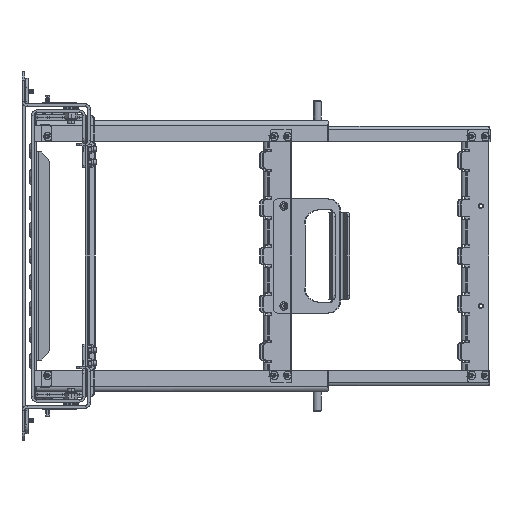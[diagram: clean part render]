
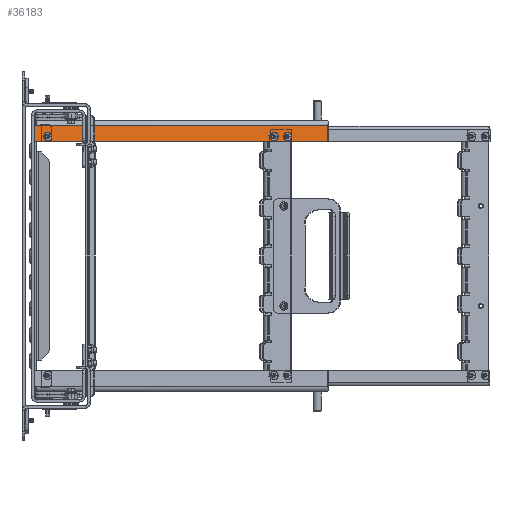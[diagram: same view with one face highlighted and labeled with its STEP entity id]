
A CAD part, left-side view. The second image highlights one B-rep face of the part: STEP entity #36183.
In plain terms, the highlighted planar face has unit normal (-0.906, -0.423, 0) as drawn and (0, -1, 0) by its records, which use the part's own axes.
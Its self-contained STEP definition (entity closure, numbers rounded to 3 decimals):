
#783 = AXIS2_PLACEMENT_3D ( 'NONE', #29676, #2692, #34147 ) ;
#945 = CARTESIAN_POINT ( 'NONE',  ( 19., -23., 308.5 ) ) ;
#1224 = VERTEX_POINT ( 'NONE', #37171 ) ;
#1406 = DIRECTION ( 'NONE',  ( 0., 0., -1. ) ) ;
#1747 = ORIENTED_EDGE ( 'NONE', *, *, #24952, .T. ) ;
#1853 = CIRCLE ( 'NONE', #26958, 5. ) ;
#1890 = CARTESIAN_POINT ( 'NONE',  ( 19., -23., 23.78 ) ) ;
#2171 = FACE_OUTER_BOUND ( 'NONE', #6515, .T. ) ;
#2384 = DIRECTION ( 'NONE',  ( 0., -1., 0. ) ) ;
#2692 = DIRECTION ( 'NONE',  ( 0., 1., 0. ) ) ;
#2696 = LINE ( 'NONE', #34678, #30590 ) ;
#2944 = CIRCLE ( 'NONE', #49827, 5. ) ;
#3087 = CIRCLE ( 'NONE', #23998, 5. ) ;
#3306 = CARTESIAN_POINT ( 'NONE',  ( 21., -23., 373.5 ) ) ;
#3804 = ORIENTED_EDGE ( 'NONE', *, *, #37893, .T. ) ;
#4331 = EDGE_CURVE ( 'NONE', #20113, #30916, #37913, .T. ) ;
#5389 = DIRECTION ( 'NONE',  ( 0., 0., -1. ) ) ;
#6515 = EDGE_LOOP ( 'NONE', ( #1747, #28278, #25249, #22076, #45845, #16005, #45712, #3804 ) ) ;
#6719 = VERTEX_POINT ( 'NONE', #9706 ) ;
#6976 = EDGE_CURVE ( 'NONE', #14742, #37053, #1853, .T. ) ;
#7355 = CIRCLE ( 'NONE', #29936, 5. ) ;
#7768 = CARTESIAN_POINT ( 'NONE',  ( 19., -23., 320.5 ) ) ;
#8400 = AXIS2_PLACEMENT_3D ( 'NONE', #46232, #14206, #26290 ) ;
#8640 = ORIENTED_EDGE ( 'NONE', *, *, #21545, .F. ) ;
#9249 = DIRECTION ( 'NONE',  ( 0., -1., 0. ) ) ;
#9311 = CARTESIAN_POINT ( 'NONE',  ( 25., -23., 373.5 ) ) ;
#9428 = CARTESIAN_POINT ( 'NONE',  ( 6., -23., 0. ) ) ;
#9480 = CARTESIAN_POINT ( 'NONE',  ( 7., -23., 6.499 ) ) ;
#9706 = CARTESIAN_POINT ( 'NONE',  ( 6., -23., 8.206 ) ) ;
#10190 = CARTESIAN_POINT ( 'NONE',  ( 19., -23., 330.5 ) ) ;
#10491 = CARTESIAN_POINT ( 'NONE',  ( 19., -23., 18.78 ) ) ;
#10976 = CARTESIAN_POINT ( 'NONE',  ( 24., -23., 7.499 ) ) ;
#11766 = DIRECTION ( 'NONE',  ( -1., 0., 0. ) ) ;
#11991 = CARTESIAN_POINT ( 'NONE',  ( 19., -23., 325.5 ) ) ;
#12692 = DIRECTION ( 'NONE',  ( 0., 0., 1. ) ) ;
#12943 = DIRECTION ( 'NONE',  ( 0., -1., 0. ) ) ;
#14017 = CARTESIAN_POINT ( 'NONE',  ( 6., -23., 377.5 ) ) ;
#14069 = EDGE_CURVE ( 'NONE', #30911, #40351, #2944, .T. ) ;
#14206 = DIRECTION ( 'NONE',  ( 0., -1., 0. ) ) ;
#14461 = PLANE ( 'NONE',  #783 ) ;
#14647 = EDGE_CURVE ( 'NONE', #41322, #37560, #51262, .T. ) ;
#14714 = DIRECTION ( 'NONE',  ( -1., 0., 0. ) ) ;
#14742 = VERTEX_POINT ( 'NONE', #28948 ) ;
#14959 = ORIENTED_EDGE ( 'NONE', *, *, #14069, .F. ) ;
#15364 = DIRECTION ( 'NONE',  ( 1., 0., 0. ) ) ;
#15890 = AXIS2_PLACEMENT_3D ( 'NONE', #11991, #35882, #43780 ) ;
#16005 = ORIENTED_EDGE ( 'NONE', *, *, #4331, .T. ) ;
#16083 = ORIENTED_EDGE ( 'NONE', *, *, #6976, .F. ) ;
#18350 = DIRECTION ( 'NONE',  ( -1., 0., 0. ) ) ;
#18535 = CARTESIAN_POINT ( 'NONE',  ( 6., -23., 7.499 ) ) ;
#19222 = CARTESIAN_POINT ( 'NONE',  ( 19., -23., 28.78 ) ) ;
#19271 = DIRECTION ( 'NONE',  ( 0., -1., 0. ) ) ;
#19324 = ORIENTED_EDGE ( 'NONE', *, *, #25626, .F. ) ;
#19760 = DIRECTION ( 'NONE',  ( 0., 0., 1. ) ) ;
#19788 = ORIENTED_EDGE ( 'NONE', *, *, #44834, .F. ) ;
#19965 = EDGE_CURVE ( 'NONE', #1224, #30916, #2696, .T. ) ;
#20113 = VERTEX_POINT ( 'NONE', #18535 ) ;
#20150 = DIRECTION ( 'NONE',  ( 0., 0., -1. ) ) ;
#20452 = VERTEX_POINT ( 'NONE', #14017 ) ;
#21545 = EDGE_CURVE ( 'NONE', #37053, #14742, #7355, .T. ) ;
#21717 = VECTOR ( 'NONE', #19760, 1000. ) ;
#22076 = ORIENTED_EDGE ( 'NONE', *, *, #32546, .F. ) ;
#23998 = AXIS2_PLACEMENT_3D ( 'NONE', #45192, #9249, #1406 ) ;
#24023 = CARTESIAN_POINT ( 'NONE',  ( 6., -23., 377.5 ) ) ;
#24831 = VERTEX_POINT ( 'NONE', #7768 ) ;
#24952 = EDGE_CURVE ( 'NONE', #28611, #41322, #44715, .T. ) ;
#25249 = ORIENTED_EDGE ( 'NONE', *, *, #36791, .F. ) ;
#25626 = EDGE_CURVE ( 'NONE', #24831, #39453, #32639, .T. ) ;
#25756 = FACE_BOUND ( 'NONE', #46260, .T. ) ;
#25942 = LINE ( 'NONE', #9428, #32059 ) ;
#26290 = DIRECTION ( 'NONE',  ( 0., 0., -1. ) ) ;
#26958 = AXIS2_PLACEMENT_3D ( 'NONE', #945, #12943, #5389 ) ;
#27665 = DIRECTION ( 'NONE',  ( -1., 0., 0. ) ) ;
#28035 = CARTESIAN_POINT ( 'NONE',  ( 19., -23., 308.5 ) ) ;
#28278 = ORIENTED_EDGE ( 'NONE', *, *, #14647, .T. ) ;
#28470 = LINE ( 'NONE', #24023, #33432 ) ;
#28611 = VERTEX_POINT ( 'NONE', #46615 ) ;
#28948 = CARTESIAN_POINT ( 'NONE',  ( 19., -23., 313.5 ) ) ;
#28953 = CARTESIAN_POINT ( 'NONE',  ( 25., -23., 308.5 ) ) ;
#29108 = EDGE_CURVE ( 'NONE', #20113, #6719, #32599, .T. ) ;
#29676 = CARTESIAN_POINT ( 'NONE',  ( 0., -23., 0. ) ) ;
#29936 = AXIS2_PLACEMENT_3D ( 'NONE', #28035, #44055, #20150 ) ;
#30590 = VECTOR ( 'NONE', #14714, 1000. ) ;
#30911 = VERTEX_POINT ( 'NONE', #10491 ) ;
#30916 = VERTEX_POINT ( 'NONE', #9480 ) ;
#31253 = CARTESIAN_POINT ( 'NONE',  ( 21., -23., 377.5 ) ) ;
#32059 = VECTOR ( 'NONE', #45375, 1000. ) ;
#32546 = EDGE_CURVE ( 'NONE', #6719, #20452, #25942, .T. ) ;
#32599 = LINE ( 'NONE', #36553, #21717 ) ;
#32639 = CIRCLE ( 'NONE', #15890, 5. ) ;
#33334 = DIRECTION ( 'NONE',  ( 0., 0., -1. ) ) ;
#33422 = VECTOR ( 'NONE', #12692, 1000. ) ;
#33432 = VECTOR ( 'NONE', #15364, 1000. ) ;
#34147 = DIRECTION ( 'NONE',  ( -1., 0., 0. ) ) ;
#34534 = AXIS2_PLACEMENT_3D ( 'NONE', #38305, #2384, #18350 ) ;
#34678 = CARTESIAN_POINT ( 'NONE',  ( 6., -23., 6.499 ) ) ;
#35314 = AXIS2_PLACEMENT_3D ( 'NONE', #3306, #19271, #27665 ) ;
#35396 = DIRECTION ( 'NONE',  ( 0., -1., 0. ) ) ;
#35882 = DIRECTION ( 'NONE',  ( 0., -1., 0. ) ) ;
#36183 = ADVANCED_FACE ( 'NONE', ( #25756, #37839, #38100, #2171 ), #14461, .F. ) ;
#36553 = CARTESIAN_POINT ( 'NONE',  ( 6., -23., 0. ) ) ;
#36791 = EDGE_CURVE ( 'NONE', #20452, #37560, #28470, .T. ) ;
#36899 = CIRCLE ( 'NONE', #8400, 5. ) ;
#37053 = VERTEX_POINT ( 'NONE', #38423 ) ;
#37171 = CARTESIAN_POINT ( 'NONE',  ( 24., -23., 6.499 ) ) ;
#37440 = EDGE_CURVE ( 'NONE', #40351, #30911, #36899, .T. ) ;
#37560 = VERTEX_POINT ( 'NONE', #31253 ) ;
#37839 = FACE_BOUND ( 'NONE', #47119, .T. ) ;
#37893 = EDGE_CURVE ( 'NONE', #1224, #28611, #44459, .T. ) ;
#37913 = CIRCLE ( 'NONE', #34534, 1. ) ;
#38100 = FACE_BOUND ( 'NONE', #41313, .T. ) ;
#38305 = CARTESIAN_POINT ( 'NONE',  ( 7., -23., 7.499 ) ) ;
#38423 = CARTESIAN_POINT ( 'NONE',  ( 19., -23., 303.5 ) ) ;
#39453 = VERTEX_POINT ( 'NONE', #10190 ) ;
#40351 = VERTEX_POINT ( 'NONE', #19222 ) ;
#41313 = EDGE_LOOP ( 'NONE', ( #14959, #44325 ) ) ;
#41322 = VERTEX_POINT ( 'NONE', #9311 ) ;
#41759 = DIRECTION ( 'NONE',  ( 0., -1., 0. ) ) ;
#43664 = AXIS2_PLACEMENT_3D ( 'NONE', #10976, #35396, #11766 ) ;
#43780 = DIRECTION ( 'NONE',  ( 0., 0., -1. ) ) ;
#44055 = DIRECTION ( 'NONE',  ( 0., -1., 0. ) ) ;
#44325 = ORIENTED_EDGE ( 'NONE', *, *, #37440, .F. ) ;
#44459 = CIRCLE ( 'NONE', #43664, 1. ) ;
#44715 = LINE ( 'NONE', #28953, #33422 ) ;
#44834 = EDGE_CURVE ( 'NONE', #39453, #24831, #3087, .T. ) ;
#45192 = CARTESIAN_POINT ( 'NONE',  ( 19., -23., 325.5 ) ) ;
#45375 = DIRECTION ( 'NONE',  ( 0., 0., 1. ) ) ;
#45712 = ORIENTED_EDGE ( 'NONE', *, *, #19965, .F. ) ;
#45845 = ORIENTED_EDGE ( 'NONE', *, *, #29108, .F. ) ;
#46232 = CARTESIAN_POINT ( 'NONE',  ( 19., -23., 23.78 ) ) ;
#46260 = EDGE_LOOP ( 'NONE', ( #19324, #19788 ) ) ;
#46615 = CARTESIAN_POINT ( 'NONE',  ( 25., -23., 7.499 ) ) ;
#47119 = EDGE_LOOP ( 'NONE', ( #8640, #16083 ) ) ;
#49827 = AXIS2_PLACEMENT_3D ( 'NONE', #1890, #41759, #33334 ) ;
#51262 = CIRCLE ( 'NONE', #35314, 4. ) ;
